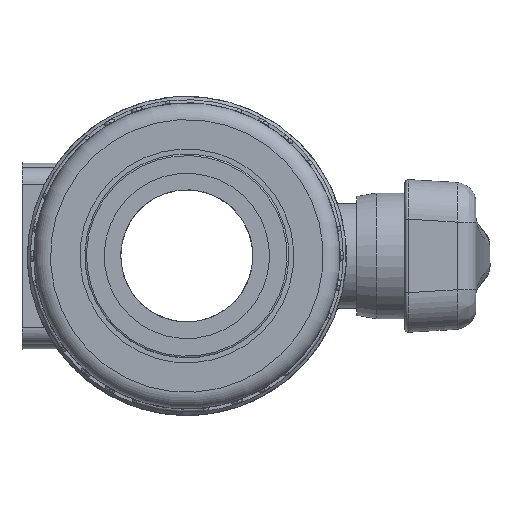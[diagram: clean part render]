
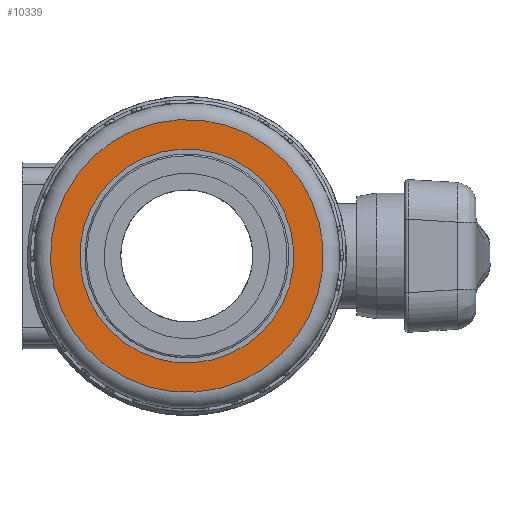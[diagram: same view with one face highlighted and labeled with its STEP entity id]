
A CAD part, front view. The second image highlights one B-rep face of the part: STEP entity #10339.
In plain terms, the highlighted planar face has unit normal (0, -1, 0).
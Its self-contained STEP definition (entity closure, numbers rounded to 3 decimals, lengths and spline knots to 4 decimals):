
#320=FACE_BOUND('',#1934,.T.);
#1259=FACE_OUTER_BOUND('',#1933,.T.);
#1933=EDGE_LOOP('',(#8013));
#1934=EDGE_LOOP('',(#8014));
#2499=CIRCLE('',#11219,4.125);
#2500=CIRCLE('',#11220,3.235);
#4465=VERTEX_POINT('',#40330);
#4466=VERTEX_POINT('',#40332);
#5720=EDGE_CURVE('',#4465,#4465,#2499,.T.);
#5721=EDGE_CURVE('',#4466,#4466,#2500,.T.);
#8013=ORIENTED_EDGE('',*,*,#5720,.F.);
#8014=ORIENTED_EDGE('',*,*,#5721,.T.);
#9248=PLANE('',#11218);
#10339=ADVANCED_FACE('',(#1259,#320),#9248,.T.);
#11218=AXIS2_PLACEMENT_3D('',#40329,#13256,#13257);
#11219=AXIS2_PLACEMENT_3D('',#40331,#13258,#13259);
#11220=AXIS2_PLACEMENT_3D('',#40333,#13260,#13261);
#13256=DIRECTION('center_axis',(0.,-1.,0.));
#13257=DIRECTION('ref_axis',(-0.592,0.,-0.806));
#13258=DIRECTION('center_axis',(0.,1.,0.));
#13259=DIRECTION('ref_axis',(0.806,0.,-0.592));
#13260=DIRECTION('center_axis',(0.,1.,0.));
#13261=DIRECTION('ref_axis',(0.806,0.,-0.592));
#40329=CARTESIAN_POINT('Origin',(-3.323,-5.15,2.4441));
#40330=CARTESIAN_POINT('',(-3.323,-5.15,2.4441));
#40331=CARTESIAN_POINT('Origin',(0.,-5.15,0.));
#40332=CARTESIAN_POINT('',(-2.606,-5.15,1.9167));
#40333=CARTESIAN_POINT('Origin',(0.,-5.15,0.));
